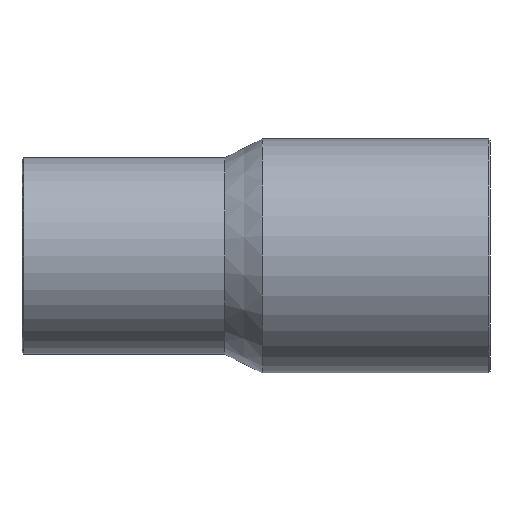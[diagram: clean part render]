
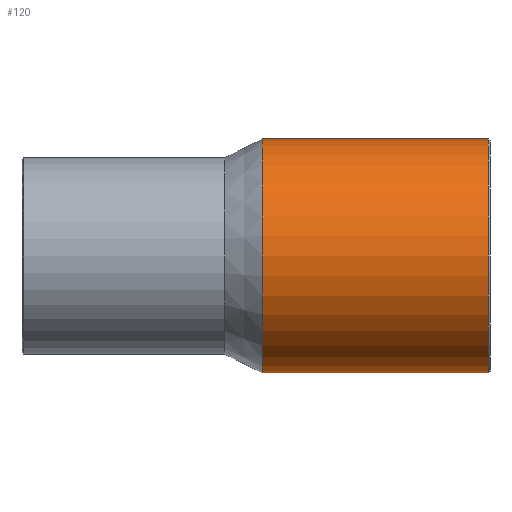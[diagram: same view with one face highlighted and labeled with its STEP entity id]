
A CAD part, front view. The second image highlights one B-rep face of the part: STEP entity #120.
In plain terms, the highlighted cylindrical face has radius 37.5 mm (diameter 75 mm), a full revolution.
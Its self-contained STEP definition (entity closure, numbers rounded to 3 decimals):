
#26=ORIENTED_EDGE('',*,*,#46,.T.);
#27=ORIENTED_EDGE('',*,*,#47,.F.);
#46=EDGE_CURVE('',#56,#56,#66,.T.);
#47=EDGE_CURVE('',#57,#57,#67,.T.);
#56=VERTEX_POINT('',#208);
#57=VERTEX_POINT('',#210);
#66=CIRCLE('',#144,37.5);
#67=CIRCLE('',#145,37.5);
#76=EDGE_LOOP('',(#26));
#77=EDGE_LOOP('',(#27));
#96=FACE_BOUND('',#76,.T.);
#97=FACE_BOUND('',#77,.T.);
#116=CYLINDRICAL_SURFACE('',#143,37.5);
#120=ADVANCED_FACE('',(#96,#97),#116,.T.);
#143=AXIS2_PLACEMENT_3D('',#206,#165,#166);
#144=AXIS2_PLACEMENT_3D('',#207,#167,#168);
#145=AXIS2_PLACEMENT_3D('',#209,#169,#170);
#165=DIRECTION('',(-1.,0.,0.));
#166=DIRECTION('',(0.,0.,1.));
#167=DIRECTION('',(-1.,0.,0.));
#168=DIRECTION('',(0.,0.,1.));
#169=DIRECTION('',(-1.,0.,0.));
#170=DIRECTION('',(0.,0.,1.));
#206=CARTESIAN_POINT('',(-60.,0.,0.));
#207=CARTESIAN_POINT('',(78.5,0.,0.));
#208=CARTESIAN_POINT('',(78.5,0.,37.5));
#209=CARTESIAN_POINT('',(6.,0.,0.));
#210=CARTESIAN_POINT('',(6.,0.,37.5));
